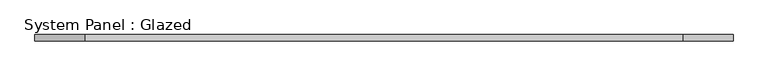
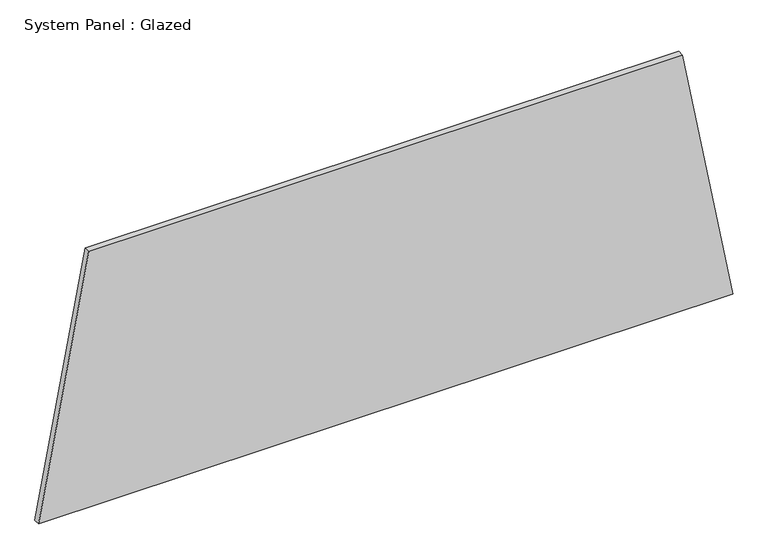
"""IFC4 building model written with IfcOpenShell, lengths in millimetres: plate geometry, System Panel : Glazed."""

from ifc_helpers import new_model, si_unit, frame, origin, place, context, project, spatial, polyline, outline, extrude, source, transform, mapped, element, save


def system_panel_glazed_8b0493d8(model_context):
    return source(origin(), model_context, "Body", "SweptSolid", [
        extrude(outline(polyline([(0.0, -1346.640227), (0.0, 1346.640227), (1048.958325, 1152.3500512), (1048.958325, -1152.3500512), (0.0, -1346.640227)])), frame((0.0, -49.5, 0.0), z_axis=(0.0, 1.0, 0.0), x_axis=(0.0, 0.0, 1.0)), (0.0, 0.0, 1.0), 25.0),
    ])


if __name__ == "__main__":
    model = new_model("IFC4")
    model_context = context("Model", 3, world=origin())
    ifc_project = project(units=[si_unit("LENGTHUNIT", "METRE", prefix="MILLI")], contexts=[model_context])
    site = spatial("IfcSite", under=ifc_project)
    building = spatial("IfcBuilding", under=site)
    placement = place(None, origin())
    system_panel_glazed_shape = system_panel_glazed_8b0493d8(model_context)
    element("IfcPlate", 1, ObjectType="System Panel : Glazed", at=placement, inside=building, context=model_context, shape_type="MappedRepresentation", body=[
        mapped(system_panel_glazed_shape, transform((0.0, 0.0, 0.0), x_axis=(1.0, 0.0, 0.0), y_axis=(0.0, 1.0, 0.0), z_axis=(0.0, 0.0, 1.0))),
    ])
    save(model, "model.ifc")
